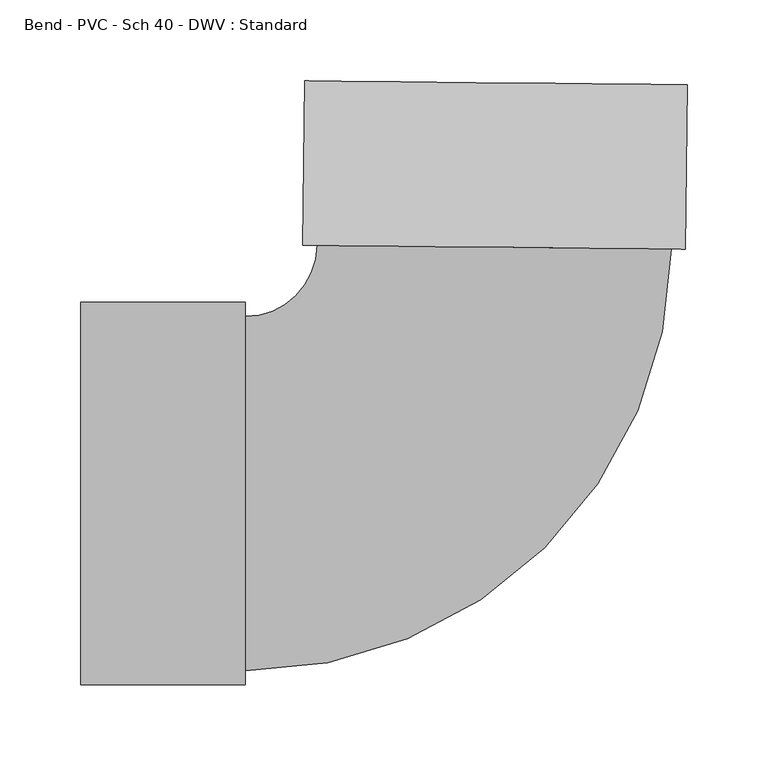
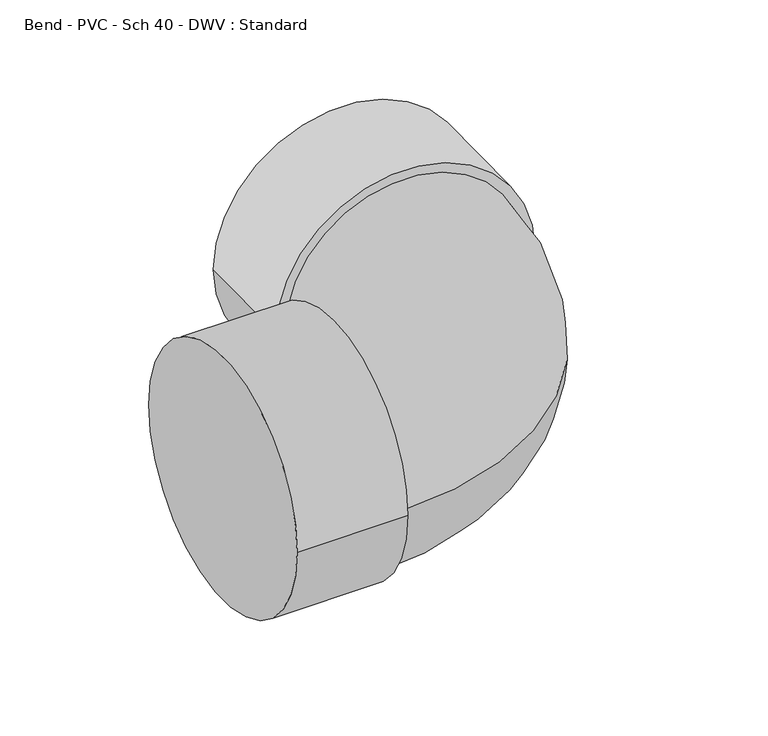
"""IFC4 building model written with IfcOpenShell, lengths in millimetres: pipe fitting geometry, Bend - PVC - Sch 40 - DWV : Standard."""

from ifc_helpers import new_model, si_unit, point, frame, origin, place, context, project, spatial, circle_curve, ellipse_curve, trimmed, source, transform, mapped, element, save
from ifc_brep_helpers import plane_surface, cylinder_surface, revolved_surface, advanced_brep


def bend_pvc_sch_40_dwv_standard_c085084d(model_context):
    return source(origin(), model_context, "Body", "AdvancedBrep", [
        advanced_brep(
        [(-254.0, -118.2497, 0.0), (-254.0, 118.2497, 0.0), (-152.4, -118.2497, 0.0), (-152.4, 118.2497, 0.0), (-152.4, -109.5375, 0.0), (-152.4, 109.5375, 0.0), (-107.9441438, 153.5326862, 0.0), (111.1189716, 151.2507787, 0.0), (119.8306989, 151.1600316, 0.0), (-116.6558712, 153.6234333, 0.0), (120.8889749, 252.7545199, 0.0), (-115.5975953, 255.2179216, 0.0)],
        [
            (0, 1, circle_curve(frame((-254.0, 0.0, 0.0), z_axis=(-1.0, 0.0, 0.0), x_axis=(0.0, 1.0, 0.0)), 118.2497)),
            (1, 0, circle_curve(frame((-254.0, 0.0, 0.0), z_axis=(-1.0, 0.0, 0.0), x_axis=(0.0, 1.0, 0.0)), 118.2497)),
            (2, 3, circle_curve(frame((-152.4, 0.0, 0.0), z_axis=(1.0, 0.0, 0.0), x_axis=(0.0, 1.0, 0.0)), 118.2497)),
            (3, 2, circle_curve(frame((-152.4, 0.0, 0.0), z_axis=(1.0, 0.0, 0.0), x_axis=(0.0, 1.0, 0.0)), 118.2497)),
            (4, 5, circle_curve(frame((-152.4, 0.0, 0.0), z_axis=(-1.0, 0.0, 0.0), x_axis=(0.0, 1.0, 0.0)), 109.5375)),
            (5, 4, circle_curve(frame((-152.4, 0.0, 0.0), z_axis=(-1.0, 0.0, 0.0), x_axis=(0.0, 1.0, 0.0)), 109.5375)),
            (0, 2),
            (3, 1),
            (6, 5, circle_curve(frame((-152.4, 153.995768, 0.0), z_axis=(0.0, 0.0, -1.0), x_axis=(0.0, -1.0, 0.0)), 44.458268)),
            (4, 7, circle_curve(frame((-152.4, 153.995768, 0.0), z_axis=(0.0, 0.0, 1.0), x_axis=(0.0, -1.0, 0.0)), 263.533268)),
            (7, 6, circle_curve(frame((1.5874139, 152.3917324, 0.0), z_axis=(-0.010416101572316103, -0.9999457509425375, 0.0), x_axis=(-0.9999457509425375, 0.010416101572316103, 0.0)), 109.5375)),
            (6, 7, circle_curve(frame((1.5874139, 152.3917324, 0.0), z_axis=(-0.010416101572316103, -0.9999457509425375, 0.0), x_axis=(-0.9999457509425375, 0.010416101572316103, 0.0)), 109.5375)),
            (8, 9, circle_curve(frame((1.5874139, 152.3917324, 0.0), z_axis=(-0.010416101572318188, -0.9999457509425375, 0.0), x_axis=(-0.9999457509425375, 0.010416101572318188, 0.0)), 118.2497)),
            (9, 8, circle_curve(frame((1.5874139, 152.3917324, 0.0), z_axis=(-0.010416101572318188, -0.9999457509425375, 0.0), x_axis=(-0.9999457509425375, 0.010416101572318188, 0.0)), 118.2497)),
            (10, 11, circle_curve(frame((2.6456898, 253.9862207, 0.0), z_axis=(0.010416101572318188, 0.9999457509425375, 0.0), x_axis=(-0.9999457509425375, 0.010416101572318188, 0.0)), 118.2497)),
            (11, 10, circle_curve(frame((2.6456898, 253.9862207, 0.0), z_axis=(0.010416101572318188, 0.9999457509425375, 0.0), x_axis=(-0.9999457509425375, 0.010416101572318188, 0.0)), 118.2497)),
            (8, 10),
            (11, 9),
        ],
        [
            plane_surface(frame((-254.0, 0.0, 0.0), z_axis=(-1.0, 0.0, 0.0), x_axis=(0.0, 0.0, 1.0))),
            plane_surface(frame((-152.4, 0.0, 0.0), z_axis=(1.0, 0.0, 0.0), x_axis=(0.0, 0.0, 1.0))),
            cylinder_surface(frame((-254.0, 0.0, 0.0), z_axis=(-1.0, 0.0, 0.0), x_axis=(0.0, 1.0, 0.0)), 118.2497),
            revolved_surface(trimmed(ellipse_curve(frame((-152.4, 0.0, 0.0), z_axis=(-1.0, 0.0, 0.0), x_axis=(0.0, 1.0, 0.0)), 109.5375, 109.5375), [point((-152.4, -109.5375, 0.0))], [point((-152.4, 109.5375, 0.0))], True, "CARTESIAN"), (-152.4, 153.995768, 0.0), (0.0, 0.0, 1.0)),
            revolved_surface(trimmed(ellipse_curve(frame((-152.4, 0.0, 0.0), z_axis=(-1.0, 0.0, 0.0), x_axis=(0.0, 1.0, 0.0)), 109.5375, 109.5375), [point((-152.4, 109.5375, 0.0))], [point((-152.4, -109.5375, 0.0))], True, "CARTESIAN"), (-152.4, 153.995768, 0.0), (0.0, 0.0, 1.0)),
            plane_surface(frame((1.5874139, 152.3917324, 0.0), z_axis=(-0.010416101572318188, -0.9999457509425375, 0.0), x_axis=(0.0, 0.0, 1.0))),
            plane_surface(frame((2.6456898, 253.9862207, 0.0), z_axis=(0.010416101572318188, 0.9999457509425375, 0.0), x_axis=(0.0, 0.0, 1.0))),
            cylinder_surface(frame((1.5874139, 152.3917324, 0.0), z_axis=(-0.010416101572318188, -0.9999457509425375, 0.0), x_axis=(-0.9999457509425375, 0.010416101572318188, 0.0)), 118.2497),
        ],
        [
            (0, [[1, 2]]),
            (1, [[3, 4], [5, 6]]),
            (2, [[-1, 7, -4, 8]]),
            (2, [[-2, -8, -3, -7]]),
            (3, [[9, -5, 10, 11]]),
            (4, [[-9, 12, -10, -6]]),
            (5, [[13, 14], [-11, -12]]),
            (6, [[15, 16]]),
            (7, [[-13, 17, -16, 18]]),
            (7, [[-14, -18, -15, -17]]),
        ],
    ),
    ])


if __name__ == "__main__":
    model = new_model("IFC4")
    model_context = context("Model", 3, world=origin())
    ifc_project = project(units=[si_unit("LENGTHUNIT", "METRE", prefix="MILLI")], contexts=[model_context])
    site = spatial("IfcSite", under=ifc_project)
    building = spatial("IfcBuilding", under=site)
    placement = place(None, origin())
    bend_pvc_sch_40_dwv_standard_shape = bend_pvc_sch_40_dwv_standard_c085084d(model_context)
    element("IfcPipeFitting", 1, ObjectType="Bend - PVC - Sch 40 - DWV : Standard", at=placement, inside=building, context=model_context, shape_type="MappedRepresentation", body=[
        mapped(bend_pvc_sch_40_dwv_standard_shape, transform((0.0, 0.0, 0.0), x_axis=(1.0, 0.0, 0.0), y_axis=(0.0, 1.0, 0.0), z_axis=(0.0, 0.0, 1.0))),
    ])
    save(model, "model.ifc")
